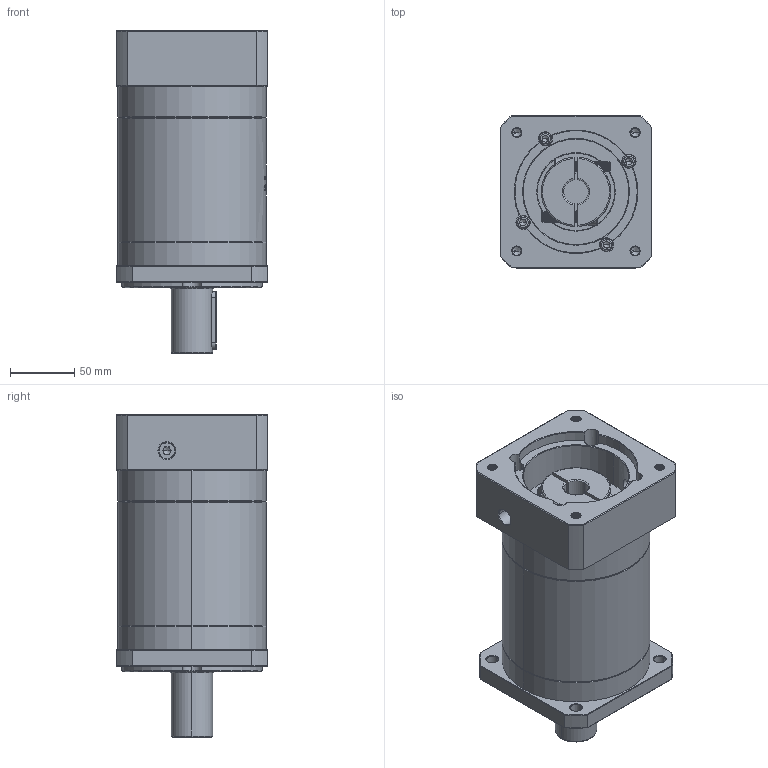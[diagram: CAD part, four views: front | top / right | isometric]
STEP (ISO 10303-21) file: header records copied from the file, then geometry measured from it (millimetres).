
FILE_DESCRIPTION (( 'STEP AP214' ), '1' );
FILE_NAME ('ZF120A-D32-L3-19-95-130-M8.step', '2023-03-07T09:35:06', ( '' ), ( '' ), 'SwSTEP 2.0', 'SolidWorks 2016', '' );
FILE_SCHEMA (( 'AUTOMOTIVE_DESIGN' ));
Length unit declared in the file: millimetre
Products named in the file (1): ZF120A-D32-L3-19-95-130-M8
Bounding box: 118 x 118 x 250.5 mm (x, y, z)
Volume: 2070340.9 mm3; surface area: 187293.3 mm2
Topology: 6 solids, 6 shells, 1951 faces, 5110 edges, 3253 vertices
Faces by surface type: plane 857, cylinder 425, cone 328, bspline 321, torus 20
Entity records: 107374 total; most frequent: CARTESIAN_POINT 41687, ORIENTED_EDGE 10160, DIRECTION 7884, EDGE_CURVE 5080, VERTEX_POINT 3253, LINE 2750, VECTOR 2750, AXIS2_PLACEMENT_3D 2567
